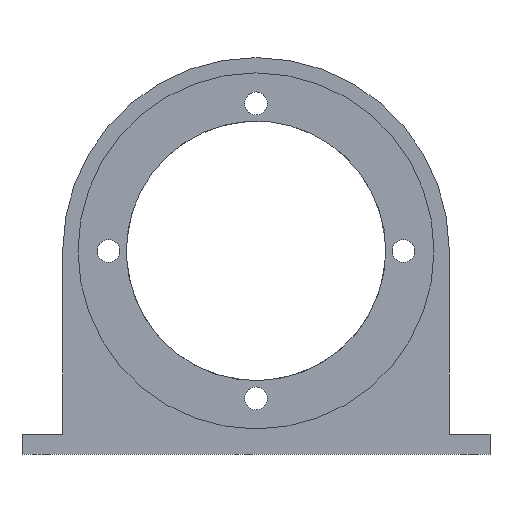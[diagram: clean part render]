
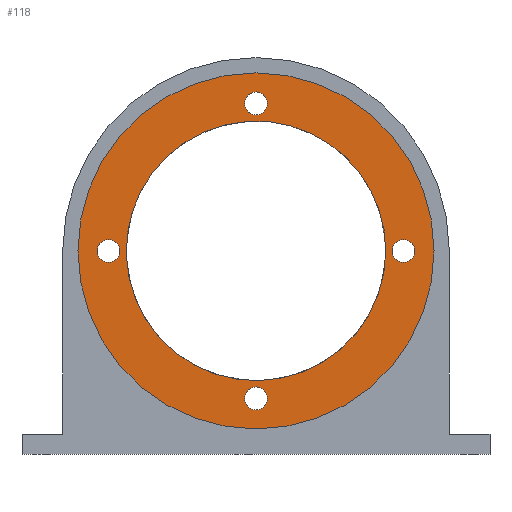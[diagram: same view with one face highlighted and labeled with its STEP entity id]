
A CAD part, front view. The second image highlights one B-rep face of the part: STEP entity #118.
In plain terms, the highlighted planar face has unit normal (0, -1, 0).
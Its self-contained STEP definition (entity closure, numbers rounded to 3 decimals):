
#56=PLANE('',#475);
#118=ADVANCED_FACE('',(#154,#155,#156,#157,#158,#159),#56,.F.);
#154=FACE_BOUND('',#198,.T.);
#155=FACE_BOUND('',#199,.T.);
#156=FACE_BOUND('',#200,.T.);
#157=FACE_BOUND('',#201,.T.);
#158=FACE_BOUND('',#202,.T.);
#159=FACE_BOUND('',#203,.T.);
#198=EDGE_LOOP('',(#287));
#199=EDGE_LOOP('',(#288));
#200=EDGE_LOOP('',(#289));
#201=EDGE_LOOP('',(#290));
#202=EDGE_LOOP('',(#291));
#203=EDGE_LOOP('',(#292));
#287=ORIENTED_EDGE('',*,*,#369,.T.);
#288=ORIENTED_EDGE('',*,*,#408,.T.);
#289=ORIENTED_EDGE('',*,*,#409,.T.);
#290=ORIENTED_EDGE('',*,*,#410,.T.);
#291=ORIENTED_EDGE('',*,*,#411,.T.);
#292=ORIENTED_EDGE('',*,*,#412,.T.);
#330=VERTEX_POINT('',#616);
#359=VERTEX_POINT('',#712);
#360=VERTEX_POINT('',#715);
#361=VERTEX_POINT('',#717);
#362=VERTEX_POINT('',#719);
#363=VERTEX_POINT('',#721);
#369=EDGE_CURVE('',#330,#330,#420,.T.);
#408=EDGE_CURVE('',#359,#359,#435,.T.);
#409=EDGE_CURVE('',#360,#360,#436,.T.);
#410=EDGE_CURVE('',#361,#361,#437,.T.);
#411=EDGE_CURVE('',#362,#362,#438,.T.);
#412=EDGE_CURVE('',#363,#363,#439,.T.);
#420=CIRCLE('',#446,35.);
#435=CIRCLE('',#469,25.5);
#436=CIRCLE('',#471,2.25);
#437=CIRCLE('',#472,2.25);
#438=CIRCLE('',#473,2.25);
#439=CIRCLE('',#474,2.25);
#446=AXIS2_PLACEMENT_3D('',#615,#496,#497);
#469=AXIS2_PLACEMENT_3D('',#711,#562,#563);
#471=AXIS2_PLACEMENT_3D('',#714,#566,#567);
#472=AXIS2_PLACEMENT_3D('',#716,#568,#569);
#473=AXIS2_PLACEMENT_3D('',#718,#570,#571);
#474=AXIS2_PLACEMENT_3D('',#720,#572,#573);
#475=AXIS2_PLACEMENT_3D('',#722,#574,#575);
#496=DIRECTION('',(0.,-1.,0.));
#497=DIRECTION('',(1.,0.,0.));
#562=DIRECTION('',(0.,1.,0.));
#563=DIRECTION('',(1.,0.,0.));
#566=DIRECTION('',(0.,1.,0.));
#567=DIRECTION('',(0.,0.,1.));
#568=DIRECTION('',(0.,1.,0.));
#569=DIRECTION('',(0.,0.,1.));
#570=DIRECTION('',(0.,1.,0.));
#571=DIRECTION('',(0.,0.,1.));
#572=DIRECTION('',(0.,1.,0.));
#573=DIRECTION('',(0.,0.,1.));
#574=DIRECTION('',(0.,1.,0.));
#575=DIRECTION('',(0.,0.,1.));
#615=CARTESIAN_POINT('',(450.,262.,402.));
#616=CARTESIAN_POINT('',(485.,262.,402.));
#711=CARTESIAN_POINT('',(450.,262.,402.));
#712=CARTESIAN_POINT('',(475.5,262.,402.));
#714=CARTESIAN_POINT('',(450.,262.,373.));
#715=CARTESIAN_POINT('',(450.,262.,375.25));
#716=CARTESIAN_POINT('',(421.,262.,402.));
#717=CARTESIAN_POINT('',(421.,262.,404.25));
#718=CARTESIAN_POINT('',(450.,262.,431.));
#719=CARTESIAN_POINT('',(450.,262.,433.25));
#720=CARTESIAN_POINT('',(479.,262.,402.));
#721=CARTESIAN_POINT('',(479.,262.,404.25));
#722=CARTESIAN_POINT('',(450.,262.,402.));
